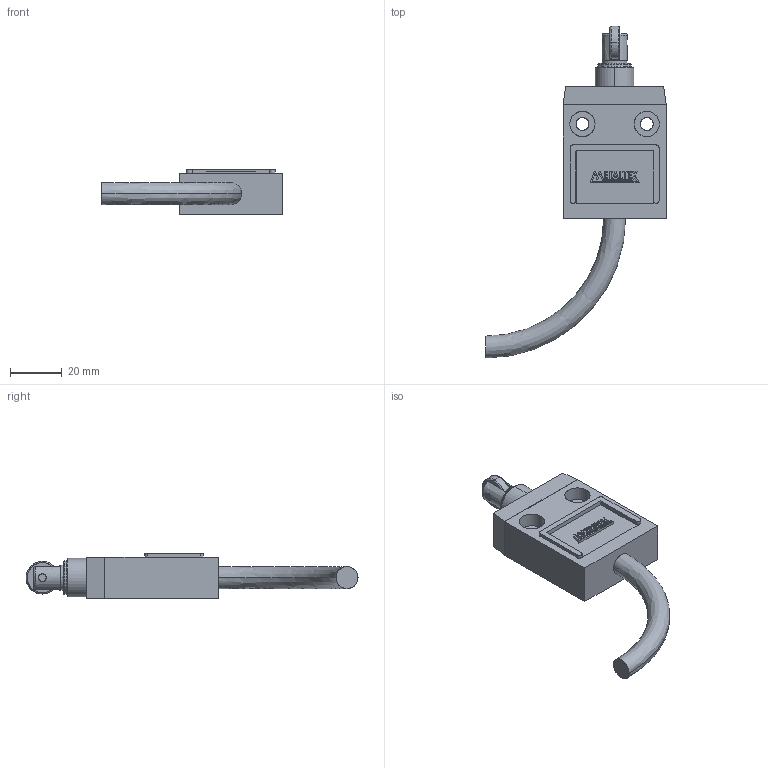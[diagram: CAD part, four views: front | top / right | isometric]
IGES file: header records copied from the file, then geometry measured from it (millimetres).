
Start section: SolidWorks IGES file using analytic representation for surfaces
Global section: file name: D:\X - Arquivos\PROEX\Empresas\P11 - METALTEX\01 - Produtos\IGES\6ª remessa\5ª etapa\TZ-3113.IGS; native system: SolidWorks 2012; preprocessor: SolidWorks 2012; author: Usuario; date: 190327.100019; units: millimetre
Bounding box: 70 x 128.9 x 17.3 mm (x, y, z)
Surface area: 11942.5 mm2 (no closed solid volume)
Topology: 0 solids, 0 shells, 243 faces, 2592 edges, 2592 vertices
Faces by surface type: bspline 199, revolution 44
